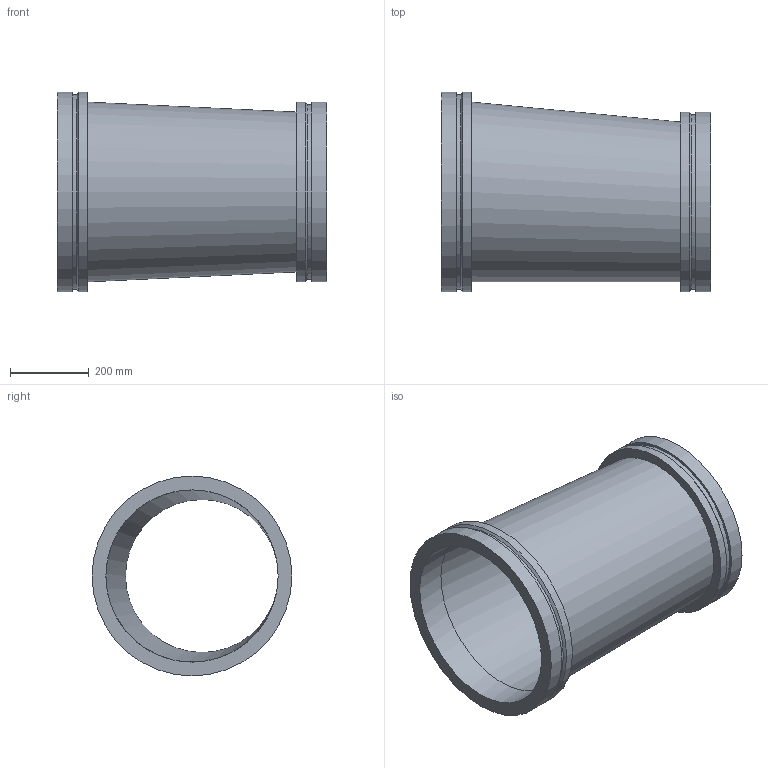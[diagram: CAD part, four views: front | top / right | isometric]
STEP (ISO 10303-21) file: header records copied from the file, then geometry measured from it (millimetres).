
FILE_DESCRIPTION(/* description */ ('VIC REDUCER ECCENTRIC No W51-VR','CAx-IF Rec.Pracs.---Representation and Presentation of Product Manufacturing Information (PMI)---4.0---2014-10-13'),/* implementation_level */ '2;1');
FILE_NAME(/* name */ 'C:\Users\kkamble\AppData\Roaming\Autodesk\ApplicationPlugins\Back Up\Victaulic_Vic-Ring_Reducer Eccentric_No W51 VR (AGR)\Victaulic_Vic-Ring_Reducer Eccentric_No W51 VR (AGR)_18.0x16.0 (450x400).stp',/* time_stamp */ '2020-09-10T11:48:59+05:00',/* author */ ('CONSTRUCTION PIPING SERVICES'),/* organization */ ('Victaulic'),/* preprocessor_version */ 'ST-DEVELOPER v17.2',/* originating_system */ 'Autodesk Inventor 2019',/* authorisation */ '');
FILE_SCHEMA (('AP242_MANAGED_MODEL_BASED_3D_ENGINEERING_MIM_LF { 1 0 10303 442 1 1 4 }'));
Length unit declared in the file: inch
Products named in the file (1): W51 VR-18.0x16.0
Bounding box: 685.8 x 508 x 508 mm (x, y, z)
Volume: 13642245.8 mm3; surface area: 2044972.6 mm2
Topology: 1 solids, 1 shells, 18 faces, 52 edges, 40 vertices
Faces by surface type: cylinder 8, plane 6, cone 2, bspline 2
Full cylindrical faces by diameter (mm): 388.823 x1, 438.15 x1, 444.5 x1, 457.2 x2, 495.3 x1, 508 x2
Entity records: 822 total; most frequent: CARTESIAN_POINT 164, DIRECTION 150, ORIENTED_EDGE 104, AXIS2_PLACEMENT_3D 70, EDGE_CURVE 52, CIRCLE 40, VERTEX_POINT 40, EDGE_LOOP 24
